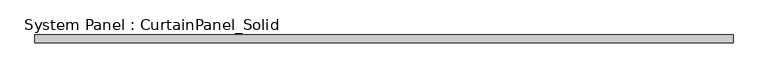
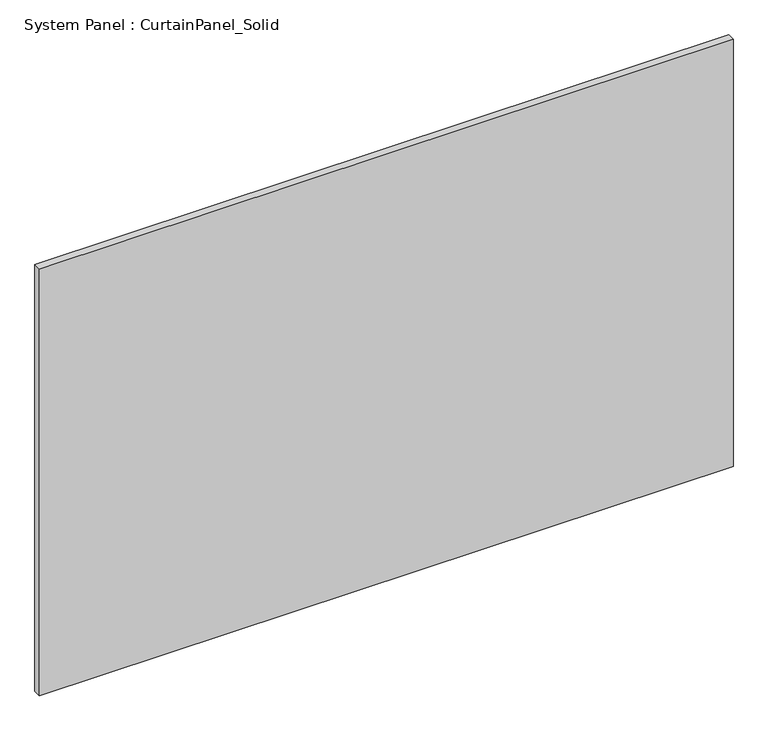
"""IFC4 building model written with IfcOpenShell, lengths in millimetres: plate geometry, System Panel : CurtainPanel_Solid."""

from ifc_helpers import new_model, si_unit, origin, origin_with_axes, place, context, project, spatial, polyline, outline, extrude, source, transform, mapped, element, save


def system_panel_curtainpanel_solid_b8b1d7bc(model_context):
    return source(origin(), model_context, "Body", "SweptSolid", [
        extrude(outline(polyline([(1113.6000001, -12.5), (-1113.6000001, -12.5), (-1113.6000001, 12.5), (1113.6000001, 12.5), (1113.6000001, -12.5)])), origin_with_axes(), (0.0, 0.0, 1.0), 1450.0),
    ])


if __name__ == "__main__":
    model = new_model("IFC4")
    model_context = context("Model", 3, world=origin())
    ifc_project = project(units=[si_unit("LENGTHUNIT", "METRE", prefix="MILLI")], contexts=[model_context])
    site = spatial("IfcSite", under=ifc_project)
    building = spatial("IfcBuilding", under=site)
    placement = place(None, origin())
    system_panel_curtainpanel_solid_shape = system_panel_curtainpanel_solid_b8b1d7bc(model_context)
    element("IfcPlate", 1, ObjectType="System Panel : CurtainPanel_Solid", at=placement, inside=building, context=model_context, shape_type="MappedRepresentation", body=[
        mapped(system_panel_curtainpanel_solid_shape, transform((0.0, 0.0, 0.0), x_axis=(1.0, 0.0, 0.0), y_axis=(0.0, 1.0, 0.0), z_axis=(0.0, 0.0, 1.0))),
    ])
    save(model, "model.ifc")
